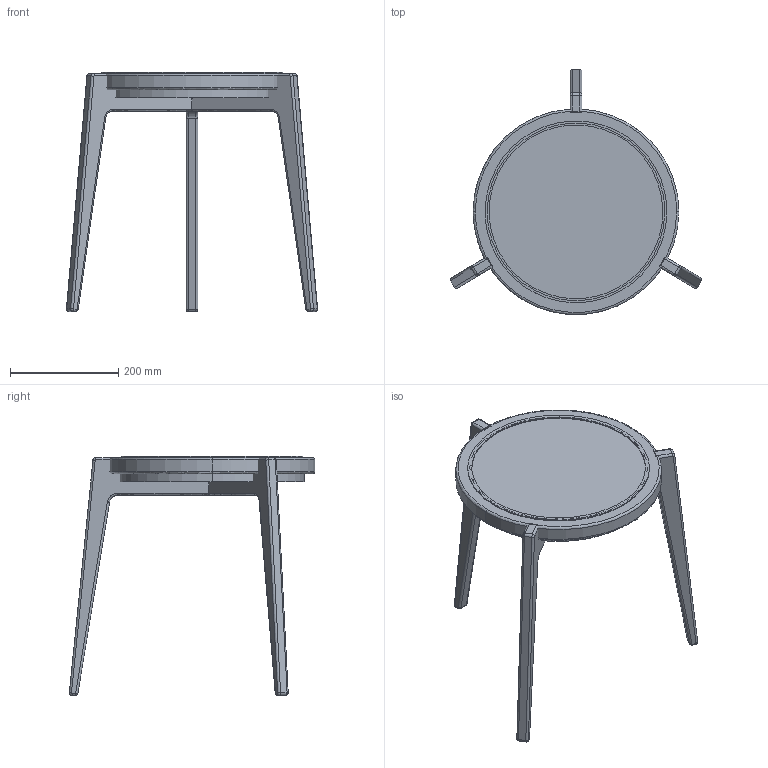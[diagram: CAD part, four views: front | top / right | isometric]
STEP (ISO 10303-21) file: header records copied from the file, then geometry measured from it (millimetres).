
FILE_DESCRIPTION(/* description */ (''),/* implementation_level */ '2;1');
FILE_NAME(/* name */ 'Le Roi Stool',/* time_stamp */ '2020-09-14T09:49:38+02:00',/* author */ (''),/* organization */ (''),/* preprocessor_version */ 'ST-DEVELOPER v15',/* originating_system */ '',/* authorisation */ '');
FILE_SCHEMA (('AUTOMOTIVE_DESIGN'));
Length unit declared in the file: millimetre
Products named in the file (1): Document
Bounding box: 464.17 x 453.5 x 441.93 mm (x, y, z)
Volume: 2710556.6 mm3; surface area: 580119.2 mm2
Topology: 7 solids, 7 shells, 125 faces, 281 edges, 170 vertices
Faces by surface type: bspline 84, plane 41
Entity records: 4176 total; most frequent: CARTESIAN_POINT 2499, ORIENTED_EDGE 562, EDGE_CURVE 281, VERTEX_POINT 170, EDGE_LOOP 131, ADVANCED_FACE 125, FACE_OUTER_BOUND 125, B_SPLINE_CURVE_WITH_KNOTS 111
